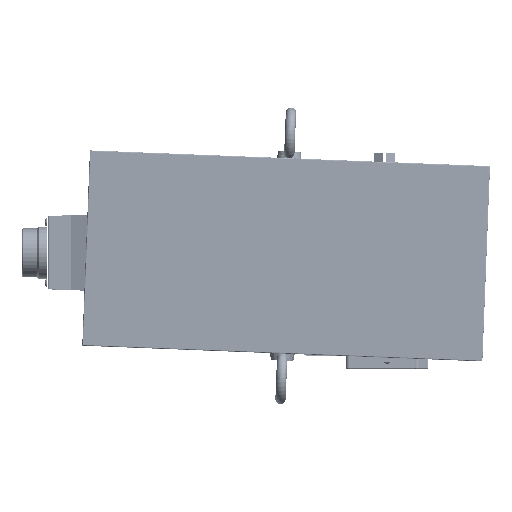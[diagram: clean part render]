
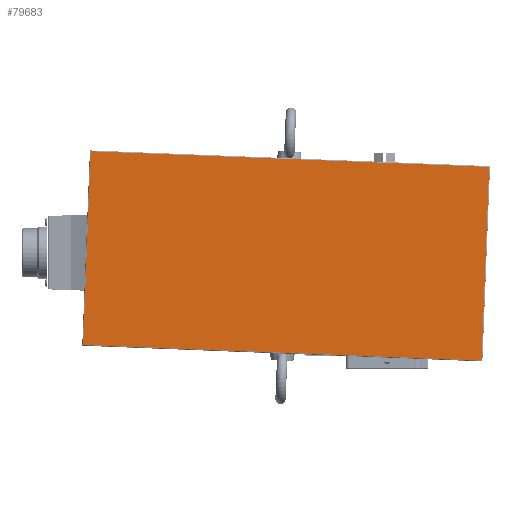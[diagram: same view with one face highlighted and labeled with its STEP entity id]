
A CAD part, top view. The second image highlights one B-rep face of the part: STEP entity #79683.
In plain terms, the highlighted planar face has unit normal (0, 0, 1).
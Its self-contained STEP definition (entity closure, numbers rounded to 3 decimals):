
#79644=CARTESIAN_POINT('',(-57.501,64.806,416.601));
#79645=DIRECTION('',(0.039,0.999,0.));
#79646=DIRECTION('',(0.,0.,-1.));
#79647=AXIS2_PLACEMENT_3D('',#79644,#79646,#79645);
#79648=PLANE('',#79647);
#79649=CARTESIAN_POINT('',(-183.675,-51.832,416.601));
#79650=VERTEX_POINT('',#79649);
#79651=CARTESIAN_POINT('',(-179.045,66.077,416.601));
#79652=VERTEX_POINT('',#79651);
#79653=CARTESIAN_POINT('',(-183.675,-51.832,416.601));
#79654=DIRECTION('',(0.039,0.999,0.));
#79655=VECTOR('',#79654,118.);
#79656=LINE('',#79653,#79655);
#79657=EDGE_CURVE('',#79650,#79652,#79656,.T.);
#79658=ORIENTED_EDGE('E69',*,*,#79657,.T.);
#79659=CARTESIAN_POINT('',(63.768,56.541,416.601));
#79660=VERTEX_POINT('',#79659);
#79661=CARTESIAN_POINT('',(-179.045,66.077,416.601));
#79662=DIRECTION('',(0.999,-0.039,0.));
#79663=VECTOR('',#79662,243.);
#79664=LINE('',#79661,#79663);
#79665=EDGE_CURVE('',#79652,#79660,#79664,.T.);
#79666=ORIENTED_EDGE('E74',*,*,#79665,.T.);
#79667=CARTESIAN_POINT('',(59.137,-61.368,416.601));
#79668=VERTEX_POINT('',#79667);
#79669=CARTESIAN_POINT('',(63.768,56.541,416.601));
#79670=DIRECTION('',(-0.039,-0.999,0.));
#79671=VECTOR('',#79670,118.);
#79672=LINE('',#79669,#79671);
#79673=EDGE_CURVE('',#79660,#79668,#79672,.T.);
#79674=ORIENTED_EDGE('E76',*,*,#79673,.T.);
#79675=CARTESIAN_POINT('',(59.137,-61.368,416.601));
#79676=DIRECTION('',(-0.999,0.039,0.));
#79677=VECTOR('',#79676,243.);
#79678=LINE('',#79675,#79677);
#79679=EDGE_CURVE('',#79668,#79650,#79678,.T.);
#79680=ORIENTED_EDGE('E72',*,*,#79679,.T.);
#79681=EDGE_LOOP('',(#79658,#79666,#79674,#79680));
#79682=FACE_OUTER_BOUND('',#79681,.F.);
#79683=ADVANCED_FACE('F8',(#79682),#79648,.F.);
